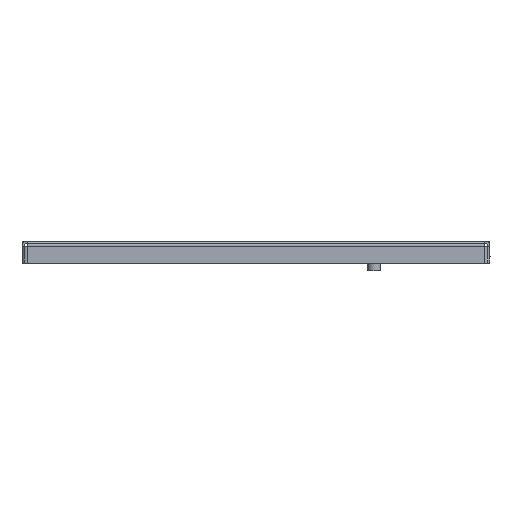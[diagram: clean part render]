
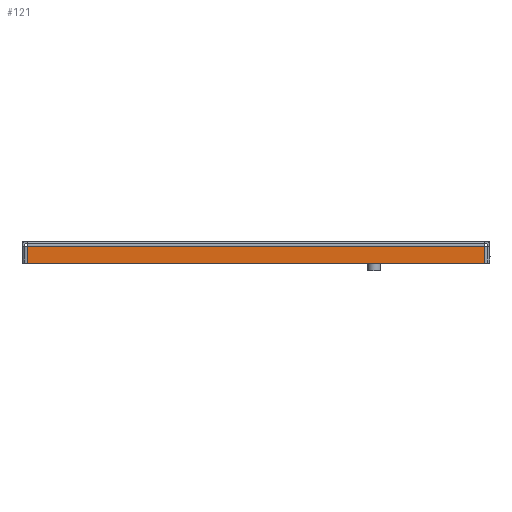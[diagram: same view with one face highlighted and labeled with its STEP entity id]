
A CAD part, left-side view. The second image highlights one B-rep face of the part: STEP entity #121.
In plain terms, the highlighted planar face has unit normal (-1, 0, 0).
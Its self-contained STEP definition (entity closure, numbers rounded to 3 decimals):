
#121=ADVANCED_FACE('',(#1545),#1547,.F.);
#1545=FACE_BOUND('',#1546,.T.);
#1546=EDGE_LOOP('',(#7074,#7075,#7076,#7077));
#1547=PLANE('',#1548);
#1548=AXIS2_PLACEMENT_3D('',#1549,#1550,#1551);
#1549=CARTESIAN_POINT('',(-393.2,0.,0.));
#1550=DIRECTION('',(1.,0.,0.));
#1551=DIRECTION('',(0.,0.,-1.));
#7074=ORIENTED_EDGE('',*,*,#10511,.F.);
#7075=ORIENTED_EDGE('',*,*,#10513,.F.);
#7076=ORIENTED_EDGE('',*,*,#10514,.F.);
#7077=ORIENTED_EDGE('',*,*,#10515,.F.);
#10511=EDGE_CURVE('',#13305,#13298,#13309,.T.);
#10513=EDGE_CURVE('',#13311,#13305,#13312,.T.);
#10514=EDGE_CURVE('',#13313,#13311,#13314,.T.);
#10515=EDGE_CURVE('',#13298,#13313,#13315,.T.);
#13298=VERTEX_POINT('',#18487);
#13305=VERTEX_POINT('',#18507);
#13309=LINE('',#18518,#18519);
#13311=VERTEX_POINT('',#18524);
#13312=LINE('',#18525,#18526);
#13313=VERTEX_POINT('',#18528);
#13314=LINE('',#18529,#18530);
#13315=LINE('',#18532,#18533);
#18487=CARTESIAN_POINT('',(-393.2,-145.3,-3.2));
#18507=CARTESIAN_POINT('',(-393.2,145.3,-3.2));
#18518=CARTESIAN_POINT('',(-393.2,145.3,-3.2));
#18519=VECTOR('',#18520,1.);
#18520=DIRECTION('',(0.,-1.,0.));
#18524=CARTESIAN_POINT('',(-393.2,145.3,-14.));
#18525=CARTESIAN_POINT('',(-393.2,145.3,-14.));
#18526=VECTOR('',#18527,1.);
#18527=DIRECTION('',(0.,0.,1.));
#18528=CARTESIAN_POINT('',(-393.2,-145.3,-14.));
#18529=CARTESIAN_POINT('',(-393.2,-145.3,-14.));
#18530=VECTOR('',#18531,1.);
#18531=DIRECTION('',(0.,1.,0.));
#18532=CARTESIAN_POINT('',(-393.2,-145.3,-3.2));
#18533=VECTOR('',#18534,1.);
#18534=DIRECTION('',(0.,0.,-1.));
